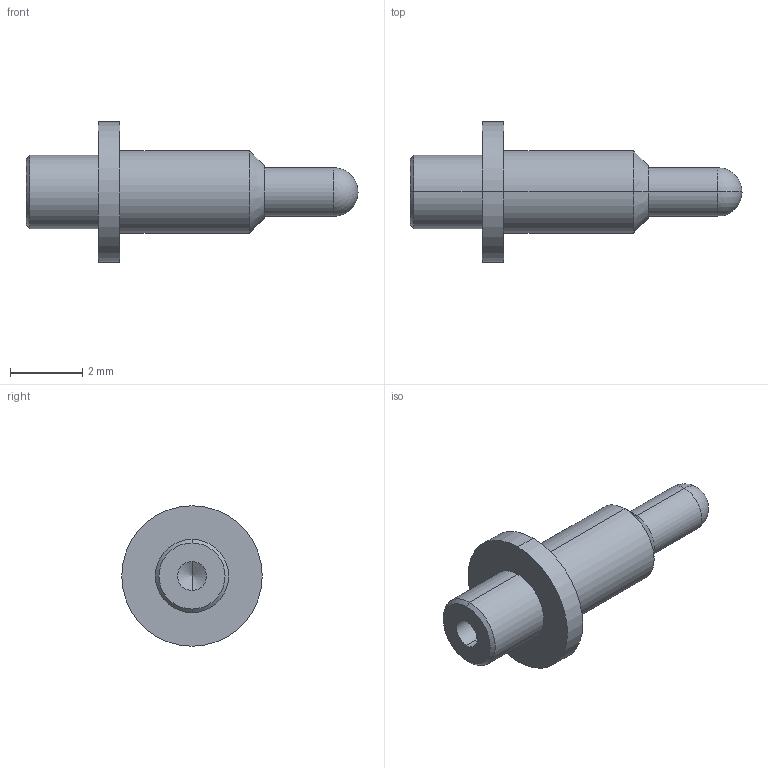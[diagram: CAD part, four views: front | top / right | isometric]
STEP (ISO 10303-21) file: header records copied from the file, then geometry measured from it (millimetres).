
FILE_DESCRIPTION (( 'STEP AP214' ), '1' );
FILE_NAME ('PD9J.STEP', '2021-07-22T12:59:01', ( '' ), ( '' ), 'SwSTEP 2.0', 'SolidWorks 2021', '' );
FILE_SCHEMA (( 'AUTOMOTIVE_DESIGN' ));
Length unit declared in the file: millimetre
Products named in the file (1): PD9J
Bounding box: 9.2 x 3.89 x 3.89 mm (x, y, z)
Volume: 32.5 mm3; surface area: 81.4 mm2
Topology: 1 solids, 1 shells, 22 faces, 48 edges, 28 vertices
Faces by surface type: cylinder 10, cone 6, plane 4, sphere 2
Entity records: 598 total; most frequent: DIRECTION 114, CARTESIAN_POINT 91, ORIENTED_EDGE 84, AXIS2_PLACEMENT_3D 49, EDGE_CURVE 42, EDGE_LOOP 26, VERTEX_POINT 26, CIRCLE 26
